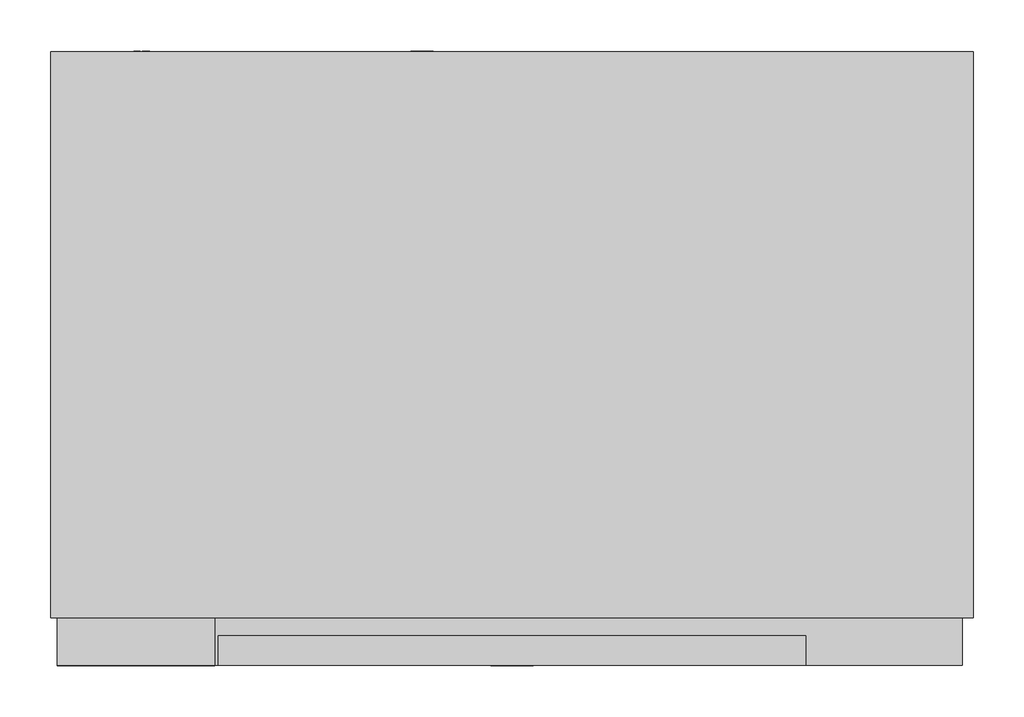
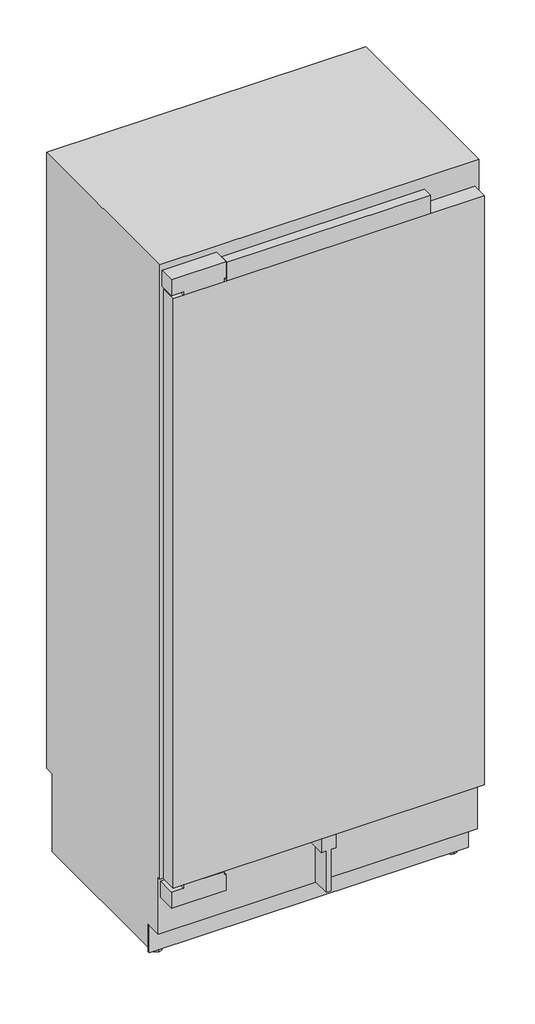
# Not in any storey: 1 proxy.
"""IFC4 building model written with IfcOpenShell, lengths in millimetres."""

from ifc_helpers import new_model, si_unit, origin, place, context, project, spatial, transform, mapped, element, save
from components import specialty_equipment_1636ad30

model = new_model("IFC4")

# Units and contexts
model_context = context("Model", 3, world=origin())
ifc_project = project(units=[si_unit("LENGTHUNIT", "METRE", prefix="MILLI")], contexts=[model_context])

# Site, building
site = spatial("IfcSite", under=ifc_project)
building = spatial("IfcBuilding", under=site)

# Proxy
placement = place(None, origin())
specialty_equipment_shape = specialty_equipment_1636ad30(model_context)
element("IfcBuildingElementProxy", 1, Name="11503390_USA_F2912Vi : 37291201_USA_11503390_F2912Vi", ObjectType="11503390_USA_F2912Vi : 37291201_USA_11503390_F2912Vi", at=placement, inside=building, context=model_context, shape_type="MappedRepresentation", body=[
    mapped(specialty_equipment_shape, transform((0.0, 0.0, 0.0), x_axis=(1.0, 0.0, 0.0), y_axis=(0.0, 1.0, 0.0), z_axis=(0.0, 0.0, 1.0))),
])

save(model, "model.ifc")
